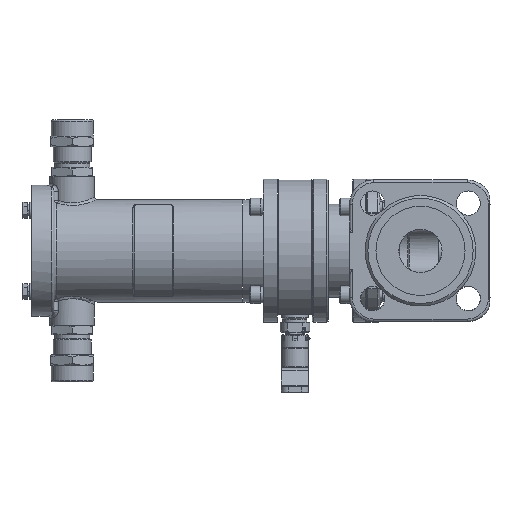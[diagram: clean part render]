
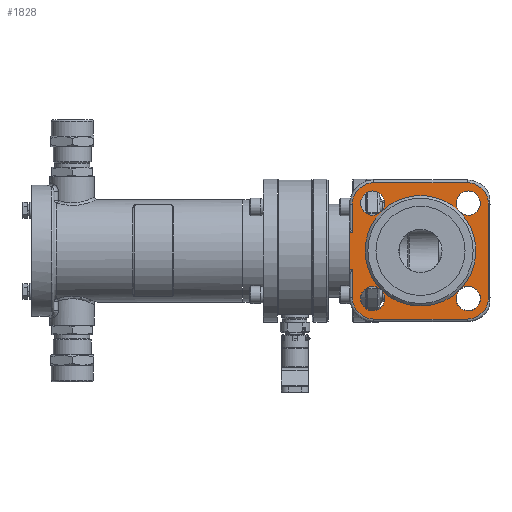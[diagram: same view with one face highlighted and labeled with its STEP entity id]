
A CAD part, left-side view. The second image highlights one B-rep face of the part: STEP entity #1828.
In plain terms, the highlighted planar face has unit normal (-1, 0, 0).
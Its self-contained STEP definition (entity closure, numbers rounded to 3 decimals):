
#1828=ADVANCED_FACE('',(#27542,#27544,#27546,#27548,#27550,#27552),#27554,.T.);
#27542=FACE_BOUND('',#27543,.T.);
#27543=EDGE_LOOP('',(#61534,#61535,#61536,#61537,#61538,#61539,#61540,#61541,#61542,
#61543,#61544,#61545));
#27544=FACE_BOUND('',#27545,.T.);
#27545=EDGE_LOOP('',(#61546,#61547));
#27546=FACE_BOUND('',#27547,.T.);
#27547=EDGE_LOOP('',(#61548,#61549));
#27548=FACE_BOUND('',#27549,.T.);
#27549=EDGE_LOOP('',(#61550));
#27550=FACE_BOUND('',#27551,.T.);
#27551=EDGE_LOOP('',(#61551,#61552,#61553,#61554));
#27552=FACE_BOUND('',#27553,.T.);
#27553=EDGE_LOOP('',(#61555,#61556));
#27554=PLANE('',#27555);
#27555=AXIS2_PLACEMENT_3D('',#27556,#27557,#27558);
#27556=CARTESIAN_POINT('',(-96.,0.,0.));
#27557=DIRECTION('',(-1.,0.,0.));
#27558=DIRECTION('',(0.,1.,0.));
#61534=ORIENTED_EDGE('',*,*,#78829,.T.);
#61535=ORIENTED_EDGE('',*,*,#78956,.T.);
#61536=ORIENTED_EDGE('',*,*,#78954,.T.);
#61537=ORIENTED_EDGE('',*,*,#78957,.T.);
#61538=ORIENTED_EDGE('',*,*,#78958,.T.);
#61539=ORIENTED_EDGE('',*,*,#78959,.T.);
#61540=ORIENTED_EDGE('',*,*,#78960,.T.);
#61541=ORIENTED_EDGE('',*,*,#78961,.T.);
#61542=ORIENTED_EDGE('',*,*,#78962,.T.);
#61543=ORIENTED_EDGE('',*,*,#78963,.T.);
#61544=ORIENTED_EDGE('',*,*,#78964,.T.);
#61545=ORIENTED_EDGE('',*,*,#78965,.F.);
#61546=ORIENTED_EDGE('',*,*,#78966,.T.);
#61547=ORIENTED_EDGE('',*,*,#78967,.T.);
#61548=ORIENTED_EDGE('',*,*,#78968,.T.);
#61549=ORIENTED_EDGE('',*,*,#78969,.T.);
#61550=ORIENTED_EDGE('',*,*,#78970,.T.);
#61551=ORIENTED_EDGE('',*,*,#78971,.T.);
#61552=ORIENTED_EDGE('',*,*,#78972,.T.);
#61553=ORIENTED_EDGE('',*,*,#78973,.T.);
#61554=ORIENTED_EDGE('',*,*,#78974,.T.);
#61555=ORIENTED_EDGE('',*,*,#78975,.T.);
#61556=ORIENTED_EDGE('',*,*,#78976,.T.);
#78829=EDGE_CURVE('',#88144,#88142,#88145,.F.);
#78954=EDGE_CURVE('',#88347,#88349,#88351,.T.);
#78956=EDGE_CURVE('',#88142,#88347,#88353,.T.);
#78957=EDGE_CURVE('',#88349,#88354,#88355,.T.);
#78958=EDGE_CURVE('',#88354,#88356,#88357,.T.);
#78959=EDGE_CURVE('',#88356,#88358,#88359,.T.);
#78960=EDGE_CURVE('',#88358,#88360,#88361,.T.);
#78961=EDGE_CURVE('',#88360,#88362,#88363,.T.);
#78962=EDGE_CURVE('',#88362,#88364,#88365,.T.);
#78963=EDGE_CURVE('',#88364,#88366,#88367,.T.);
#78964=EDGE_CURVE('',#88366,#88368,#88369,.T.);
#78965=EDGE_CURVE('',#88144,#88368,#88370,.T.);
#78966=EDGE_CURVE('',#88371,#88372,#88373,.F.);
#78967=EDGE_CURVE('',#88372,#88371,#88374,.F.);
#78968=EDGE_CURVE('',#88375,#88376,#88377,.F.);
#78969=EDGE_CURVE('',#88376,#88375,#88378,.F.);
#78970=EDGE_CURVE('',#88379,#88379,#88380,.F.);
#78971=EDGE_CURVE('',#88381,#88375,#88382,.T.);
#78972=EDGE_CURVE('',#88375,#88371,#88383,.T.);
#78973=EDGE_CURVE('',#88371,#88384,#88385,.T.);
#78974=EDGE_CURVE('',#88384,#88381,#88386,.T.);
#78975=EDGE_CURVE('',#88384,#88387,#88388,.F.);
#78976=EDGE_CURVE('',#88387,#88384,#88389,.F.);
#88142=VERTEX_POINT('',#103631);
#88144=VERTEX_POINT('',#103636);
#88145=LINE('',#103637,#103638);
#88347=VERTEX_POINT('',#104804);
#88349=VERTEX_POINT('',#104828);
#88351=LINE('',#104833,#104834);
#88353=LINE('',#104844,#104845);
#88354=VERTEX_POINT('',#104847);
#88355=CIRCLE('',#104848,16.);
#88356=VERTEX_POINT('',#104852);
#88357=LINE('',#104853,#104854);
#88358=VERTEX_POINT('',#104856);
#88359=CIRCLE('',#104857,16.);
#88360=VERTEX_POINT('',#104861);
#88361=LINE('',#104862,#104863);
#88362=VERTEX_POINT('',#104865);
#88363=CIRCLE('',#104866,16.);
#88364=VERTEX_POINT('',#104870);
#88365=LINE('',#104871,#104872);
#88366=VERTEX_POINT('',#104874);
#88367=CIRCLE('',#104875,16.);
#88368=VERTEX_POINT('',#104879);
#88369=LINE('',#104880,#104881);
#88370=LINE('',#104883,#104884);
#88371=VERTEX_POINT('',#104886);
#88372=VERTEX_POINT('',#104887);
#88373=CIRCLE('',#104888,9.);
#88374=CIRCLE('',#104892,9.);
#88375=VERTEX_POINT('',#104896);
#88376=VERTEX_POINT('',#104897);
#88377=CIRCLE('',#104898,9.);
#88378=CIRCLE('',#104902,9.);
#88379=VERTEX_POINT('',#104906);
#88380=CIRCLE('',#104907,9.);
#88381=VERTEX_POINT('',#104911);
#88382=CIRCLE('',#104912,41.);
#88383=CIRCLE('',#104916,41.);
#88384=VERTEX_POINT('',#104920);
#88385=CIRCLE('',#104921,41.);
#88386=CIRCLE('',#104925,41.);
#88387=VERTEX_POINT('',#104929);
#88388=CIRCLE('',#104930,9.);
#88389=CIRCLE('',#104934,9.);
#103631=CARTESIAN_POINT('',(-96.,52.5,-13.5));
#103636=CARTESIAN_POINT('',(-96.,52.5,13.5));
#103637=CARTESIAN_POINT('',(-96.,52.5,-13.5));
#103638=VECTOR('',#103639,1.);
#103639=DIRECTION('',(0.,0.,1.));
#104804=CARTESIAN_POINT('',(-96.,50.5,-13.5));
#104828=CARTESIAN_POINT('',(-96.,50.5,-34.5));
#104833=CARTESIAN_POINT('',(-96.,50.5,-13.5));
#104834=VECTOR('',#104835,1.);
#104835=DIRECTION('',(0.,0.,-1.));
#104844=CARTESIAN_POINT('',(-96.,52.5,-13.5));
#104845=VECTOR('',#104846,1.);
#104846=DIRECTION('',(0.,-1.,0.));
#104847=CARTESIAN_POINT('',(-96.,34.5,-50.5));
#104848=AXIS2_PLACEMENT_3D('',#104849,#104850,#104851);
#104849=CARTESIAN_POINT('',(-96.,34.5,-34.5));
#104850=DIRECTION('',(-1.,0.,0.));
#104851=DIRECTION('',(0.,1.,0.));
#104852=CARTESIAN_POINT('',(-96.,-34.5,-50.5));
#104853=CARTESIAN_POINT('',(-96.,34.5,-50.5));
#104854=VECTOR('',#104855,1.);
#104855=DIRECTION('',(0.,-1.,0.));
#104856=CARTESIAN_POINT('',(-96.,-50.5,-34.5));
#104857=AXIS2_PLACEMENT_3D('',#104858,#104859,#104860);
#104858=CARTESIAN_POINT('',(-96.,-34.5,-34.5));
#104859=DIRECTION('',(-1.,0.,0.));
#104860=DIRECTION('',(0.,0.,-1.));
#104861=CARTESIAN_POINT('',(-96.,-50.5,34.5));
#104862=CARTESIAN_POINT('',(-96.,-50.5,-34.5));
#104863=VECTOR('',#104864,1.);
#104864=DIRECTION('',(0.,0.,1.));
#104865=CARTESIAN_POINT('',(-96.,-34.5,50.5));
#104866=AXIS2_PLACEMENT_3D('',#104867,#104868,#104869);
#104867=CARTESIAN_POINT('',(-96.,-34.5,34.5));
#104868=DIRECTION('',(-1.,0.,0.));
#104869=DIRECTION('',(0.,-1.,0.));
#104870=CARTESIAN_POINT('',(-96.,34.5,50.5));
#104871=CARTESIAN_POINT('',(-96.,-34.5,50.5));
#104872=VECTOR('',#104873,1.);
#104873=DIRECTION('',(0.,1.,0.));
#104874=CARTESIAN_POINT('',(-96.,50.5,34.5));
#104875=AXIS2_PLACEMENT_3D('',#104876,#104877,#104878);
#104876=CARTESIAN_POINT('',(-96.,34.5,34.5));
#104877=DIRECTION('',(-1.,0.,0.));
#104878=DIRECTION('',(0.,0.,1.));
#104879=CARTESIAN_POINT('',(-96.,50.5,13.5));
#104880=CARTESIAN_POINT('',(-96.,50.5,34.5));
#104881=VECTOR('',#104882,1.);
#104882=DIRECTION('',(0.,0.,-1.));
#104883=CARTESIAN_POINT('',(-96.,52.5,13.5));
#104884=VECTOR('',#104885,1.);
#104885=DIRECTION('',(0.,-1.,0.));
#104886=CARTESIAN_POINT('',(-96.,-28.991,28.991));
#104887=CARTESIAN_POINT('',(-96.,-35.355,26.355));
#104888=AXIS2_PLACEMENT_3D('',#104889,#104890,#104891);
#104889=CARTESIAN_POINT('',(-96.,-35.355,35.355));
#104890=DIRECTION('',(-1.,0.,0.));
#104891=DIRECTION('',(0.,0.,-1.));
#104892=AXIS2_PLACEMENT_3D('',#104893,#104894,#104895);
#104893=CARTESIAN_POINT('',(-96.,-35.355,35.355));
#104894=DIRECTION('',(-1.,0.,0.));
#104895=DIRECTION('',(0.,0.707,-0.707));
#104896=CARTESIAN_POINT('',(-96.,28.991,28.991));
#104897=CARTESIAN_POINT('',(-96.,35.355,26.355));
#104898=AXIS2_PLACEMENT_3D('',#104899,#104900,#104901);
#104899=CARTESIAN_POINT('',(-96.,35.355,35.355));
#104900=DIRECTION('',(-1.,0.,0.));
#104901=DIRECTION('',(0.,0.,-1.));
#104902=AXIS2_PLACEMENT_3D('',#104903,#104904,#104905);
#104903=CARTESIAN_POINT('',(-96.,35.355,35.355));
#104904=DIRECTION('',(-1.,0.,0.));
#104905=DIRECTION('',(0.,-0.707,-0.707));
#104906=CARTESIAN_POINT('',(-96.,35.355,-44.355));
#104907=AXIS2_PLACEMENT_3D('',#104908,#104909,#104910);
#104908=CARTESIAN_POINT('',(-96.,35.355,-35.355));
#104909=DIRECTION('',(-1.,0.,0.));
#104910=DIRECTION('',(0.,0.,-1.));
#104911=CARTESIAN_POINT('',(-96.,41.,0.));
#104912=AXIS2_PLACEMENT_3D('',#104913,#104914,#104915);
#104913=CARTESIAN_POINT('',(-96.,0.,0.));
#104914=DIRECTION('',(1.,0.,0.));
#104915=DIRECTION('',(0.,1.,0.));
#104916=AXIS2_PLACEMENT_3D('',#104917,#104918,#104919);
#104917=CARTESIAN_POINT('',(-96.,0.,0.));
#104918=DIRECTION('',(1.,0.,0.));
#104919=DIRECTION('',(0.,0.707,0.707));
#104920=CARTESIAN_POINT('',(-96.,-28.991,-28.991));
#104921=AXIS2_PLACEMENT_3D('',#104922,#104923,#104924);
#104922=CARTESIAN_POINT('',(-96.,0.,0.));
#104923=DIRECTION('',(1.,0.,0.));
#104924=DIRECTION('',(0.,-0.707,0.707));
#104925=AXIS2_PLACEMENT_3D('',#104926,#104927,#104928);
#104926=CARTESIAN_POINT('',(-96.,0.,0.));
#104927=DIRECTION('',(1.,0.,0.));
#104928=DIRECTION('',(0.,-0.707,-0.707));
#104929=CARTESIAN_POINT('',(-96.,-35.355,-44.355));
#104930=AXIS2_PLACEMENT_3D('',#104931,#104932,#104933);
#104931=CARTESIAN_POINT('',(-96.,-35.355,-35.355));
#104932=DIRECTION('',(-1.,0.,0.));
#104933=DIRECTION('',(0.,0.,-1.));
#104934=AXIS2_PLACEMENT_3D('',#104935,#104936,#104937);
#104935=CARTESIAN_POINT('',(-96.,-35.355,-35.355));
#104936=DIRECTION('',(-1.,0.,0.));
#104937=DIRECTION('',(0.,0.707,0.707));
